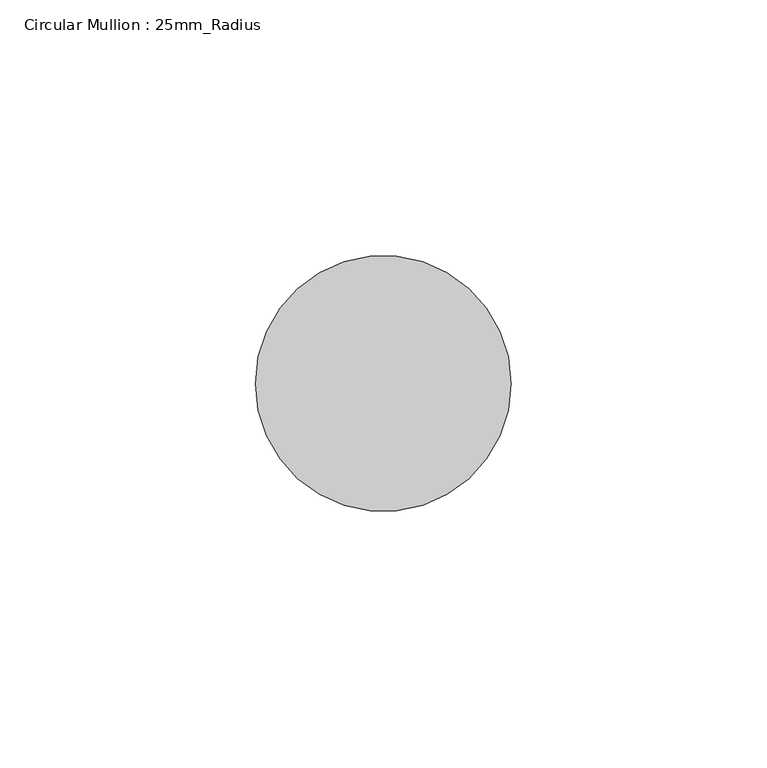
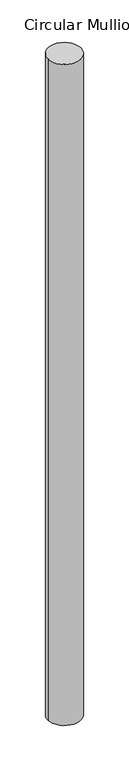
"""IFC4 building model written with IfcOpenShell, lengths in millimetres: member geometry, Circular Mullion : 25mm_Radius."""

from ifc_helpers import new_model, si_unit, point, frame, origin, origin_2d, place, context, project, spatial, circle_curve, trimmed, segment, composite_curve, outline, extrude, source, transform, mapped, element, save


def circular_mullion_25mm_radius_79c3ae93(model_context):
    return source(origin(), model_context, "Body", "SweptSolid", [
        extrude(outline(composite_curve([segment(trimmed(circle_curve(origin_2d(), 25.0), [point((25.0, 0.0))], [point((-25.0, 0.0))], False, "CARTESIAN"), True, "CONTINUOUS"), segment(trimmed(circle_curve(origin_2d(), 25.0), [point((-25.0, 0.0))], [point((25.0, 0.0))], False, "CARTESIAN"), True, "CONTINUOUS")], self_intersect=False)), frame((0.0, 0.0, -1050.0), z_axis=(0.0, 0.0, 1.0), x_axis=(1.0, 0.0, 0.0)), (0.0, 0.0, 1.0), 1050.0),
    ])


if __name__ == "__main__":
    model = new_model("IFC4")
    model_context = context("Model", 3, world=origin())
    ifc_project = project(units=[si_unit("LENGTHUNIT", "METRE", prefix="MILLI")], contexts=[model_context])
    site = spatial("IfcSite", under=ifc_project)
    building = spatial("IfcBuilding", under=site)
    placement = place(None, origin())
    circular_mullion_25mm_radius_shape = circular_mullion_25mm_radius_79c3ae93(model_context)
    element("IfcMember", 1, ObjectType="Circular Mullion : 25mm_Radius", at=placement, inside=building, context=model_context, shape_type="MappedRepresentation", body=[
        mapped(circular_mullion_25mm_radius_shape, transform((0.0, 0.0, 0.0), x_axis=(1.0, 0.0, 0.0), y_axis=(0.0, 1.0, 0.0), z_axis=(0.0, 0.0, 1.0))),
    ])
    save(model, "model.ifc")
